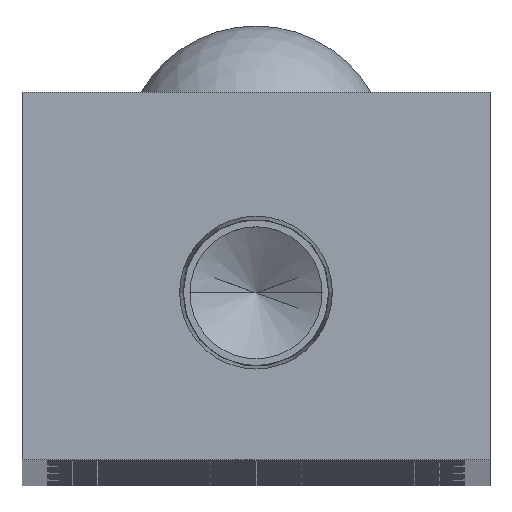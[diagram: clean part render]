
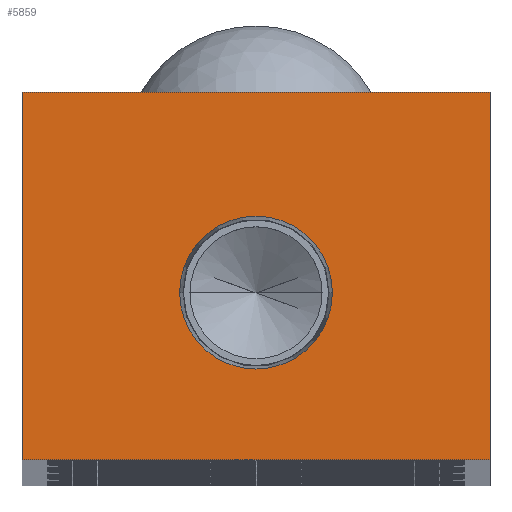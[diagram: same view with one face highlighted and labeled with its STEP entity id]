
A CAD part, top view. The second image highlights one B-rep face of the part: STEP entity #5859.
In plain terms, the highlighted planar face has unit normal (0, 0, 1).
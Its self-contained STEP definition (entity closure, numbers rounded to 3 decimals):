
#560 = DIRECTION ( 'NONE',  ( 0., 0., 1. ) ) ;
#780 = EDGE_LOOP ( 'NONE', ( #22016, #13492, #1748, #3859 ) ) ;
#1748 = ORIENTED_EDGE ( 'NONE', *, *, #4459, .T. ) ;
#2281 = CARTESIAN_POINT ( 'NONE',  ( 14., 0., 0. ) ) ;
#2487 = EDGE_CURVE ( 'NONE', #5068, #16831, #15057, .T. ) ;
#3276 = FACE_OUTER_BOUND ( 'NONE', #780, .T. ) ;
#3859 = ORIENTED_EDGE ( 'NONE', *, *, #16423, .T. ) ;
#4459 = EDGE_CURVE ( 'NONE', #12147, #8371, #27304, .T. ) ;
#5068 = VERTEX_POINT ( 'NONE', #23735 ) ;
#5476 = CARTESIAN_POINT ( 'NONE',  ( 0., 10., 0. ) ) ;
#5528 = DIRECTION ( 'NONE',  ( -1., 0., 0. ) ) ;
#5859 = ADVANCED_FACE ( 'NONE', ( #25297, #3276 ), #9732, .F. ) ;
#7657 = DIRECTION ( 'NONE',  ( 1., 0., 0. ) ) ;
#8371 = VERTEX_POINT ( 'NONE', #18413 ) ;
#8632 = CARTESIAN_POINT ( 'NONE',  ( -4.574, 10., 0. ) ) ;
#9343 = CARTESIAN_POINT ( 'NONE',  ( -14., 0., 0. ) ) ;
#9472 = DIRECTION ( 'NONE',  ( 1., 0., 0. ) ) ;
#9732 = PLANE ( 'NONE',  #11888 ) ;
#10539 = CARTESIAN_POINT ( 'NONE',  ( -14., 0., 0. ) ) ;
#10980 = VECTOR ( 'NONE', #15052, 1000. ) ;
#11277 = CARTESIAN_POINT ( 'NONE',  ( 14., 0., 0. ) ) ;
#11888 = AXIS2_PLACEMENT_3D ( 'NONE', #14038, #18314, #5528 ) ;
#12147 = VERTEX_POINT ( 'NONE', #11277 ) ;
#12160 = ORIENTED_EDGE ( 'NONE', *, *, #2487, .F. ) ;
#12233 = VECTOR ( 'NONE', #23739, 1000. ) ;
#12977 = VECTOR ( 'NONE', #9472, 1000. ) ;
#13342 = CARTESIAN_POINT ( 'NONE',  ( 0., 10., 0. ) ) ;
#13492 = ORIENTED_EDGE ( 'NONE', *, *, #19712, .T. ) ;
#14038 = CARTESIAN_POINT ( 'NONE',  ( 0., 0., 0. ) ) ;
#15052 = DIRECTION ( 'NONE',  ( 0., 1., 0. ) ) ;
#15057 = CIRCLE ( 'NONE', #21542, 4.574 ) ;
#15462 = DIRECTION ( 'NONE',  ( 1., 0., 0. ) ) ;
#16423 = EDGE_CURVE ( 'NONE', #8371, #18527, #20210, .T. ) ;
#16831 = VERTEX_POINT ( 'NONE', #8632 ) ;
#17720 = VERTEX_POINT ( 'NONE', #9343 ) ;
#18314 = DIRECTION ( 'NONE',  ( 0., 0., -1. ) ) ;
#18413 = CARTESIAN_POINT ( 'NONE',  ( 14., 22., 0. ) ) ;
#18527 = VERTEX_POINT ( 'NONE', #23348 ) ;
#18645 = LINE ( 'NONE', #22240, #12977 ) ;
#19712 = EDGE_CURVE ( 'NONE', #17720, #12147, #18645, .T. ) ;
#20210 = LINE ( 'NONE', #25693, #12233 ) ;
#20394 = DIRECTION ( 'NONE',  ( 0., 0., 1. ) ) ;
#21093 = EDGE_LOOP ( 'NONE', ( #12160, #27455 ) ) ;
#21194 = EDGE_CURVE ( 'NONE', #18527, #17720, #23203, .T. ) ;
#21542 = AXIS2_PLACEMENT_3D ( 'NONE', #13342, #560, #15462 ) ;
#22016 = ORIENTED_EDGE ( 'NONE', *, *, #21194, .T. ) ;
#22240 = CARTESIAN_POINT ( 'NONE',  ( -14., 0., 0. ) ) ;
#22450 = CIRCLE ( 'NONE', #26754, 4.574 ) ;
#22535 = VECTOR ( 'NONE', #25448, 1000. ) ;
#22676 = EDGE_CURVE ( 'NONE', #16831, #5068, #22450, .T. ) ;
#23203 = LINE ( 'NONE', #10539, #22535 ) ;
#23348 = CARTESIAN_POINT ( 'NONE',  ( -14., 22., 0. ) ) ;
#23735 = CARTESIAN_POINT ( 'NONE',  ( 4.574, 10., 0. ) ) ;
#23739 = DIRECTION ( 'NONE',  ( -1., 0., 0. ) ) ;
#25297 = FACE_BOUND ( 'NONE', #21093, .T. ) ;
#25448 = DIRECTION ( 'NONE',  ( 0., -1., 0. ) ) ;
#25693 = CARTESIAN_POINT ( 'NONE',  ( -14., 22., 0. ) ) ;
#26754 = AXIS2_PLACEMENT_3D ( 'NONE', #5476, #20394, #7657 ) ;
#27304 = LINE ( 'NONE', #2281, #10980 ) ;
#27455 = ORIENTED_EDGE ( 'NONE', *, *, #22676, .F. ) ;
